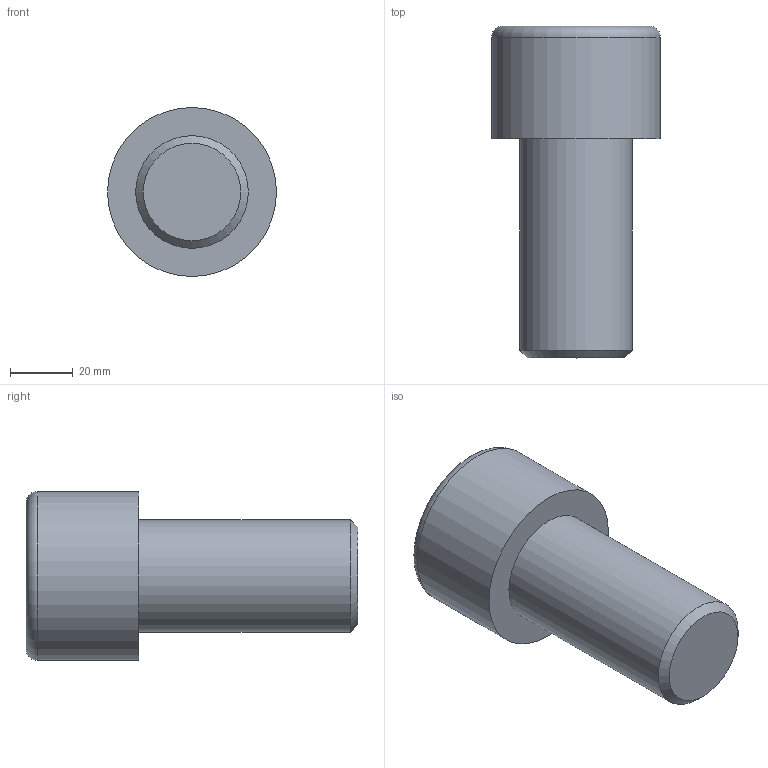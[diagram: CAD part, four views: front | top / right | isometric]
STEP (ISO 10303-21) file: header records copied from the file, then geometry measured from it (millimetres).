
FILE_DESCRIPTION(/* description */ (''),/* implementation_level */ '2;1');
FILE_NAME(/* name */ 'C:\Users\D\Documents\Inventor\各種小物\JIS\JIS B 1176 六角穴付きボルト\M36x70.stp',/* time_stamp */ '2022-05-09T19:04:12+09:00',/* author */ ('D'),/* organization */ (''),/* preprocessor_version */ 'ST-DEVELOPER v18',/* originating_system */ 'Autodesk Inventor 2020',/* authorisation */ '');
FILE_SCHEMA (('AUTOMOTIVE_DESIGN { 1 0 10303 214 3 1 1 }'));
Length unit declared in the file: millimetre
Products named in the file (1): M1.6x2.5
Bounding box: 54 x 106 x 54 mm (x, y, z)
Volume: 138694.7 mm3; surface area: 20115.3 mm2
Topology: 1 solids, 1 shells, 14 faces, 33 edges, 22 vertices
Faces by surface type: plane 9, cone 2, cylinder 2, torus 1
Full cylindrical faces by diameter (mm): 36 x1, 54 x1
Entity records: 435 total; most frequent: CARTESIAN_POINT 83, ORIENTED_EDGE 64, DIRECTION 64, EDGE_CURVE 32, AXIS2_PLACEMENT_3D 24, VERTEX_POINT 22, EDGE_LOOP 16, LINE 16
